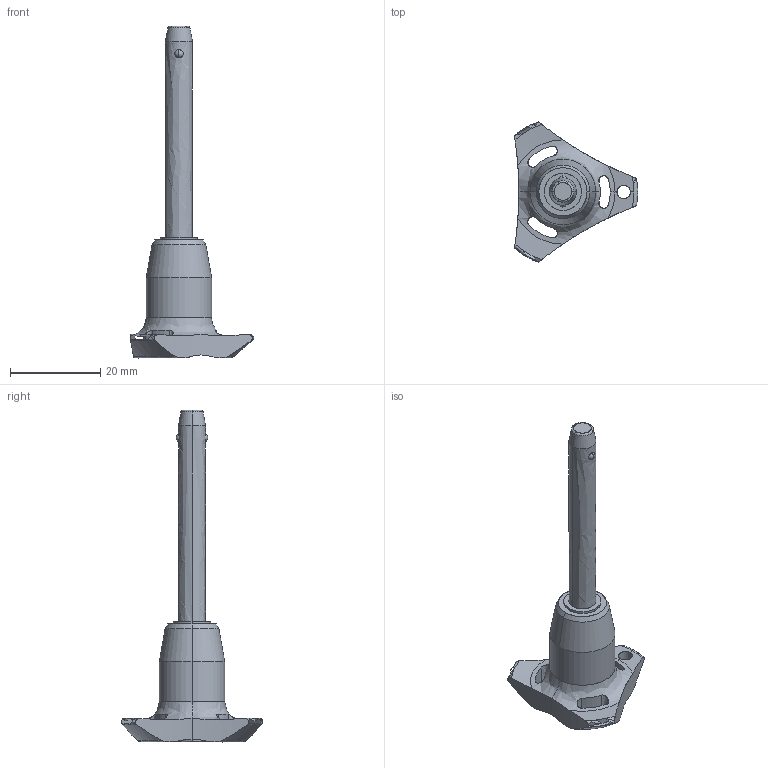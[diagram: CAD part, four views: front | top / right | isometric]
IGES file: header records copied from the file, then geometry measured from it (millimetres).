
Start section: SolidWorks IGES file using analytic representation for surfaces
Global section: file name: C:\Users\ianosborn\Desktop\QR1714_v2\QR1714_v2_20251112_IGES\QR1714.M06-040-S.igs; native system: SolidWorks 2019; preprocessor: SolidWorks 2019; author: IanOsborn; date: 251112.100001; units: millimetre
Bounding box: 27.4 x 31.31 x 73.7 mm (x, y, z)
Surface area: 3306.9 mm2 (no closed solid volume)
Topology: 0 solids, 0 shells, 66 faces, 1251 edges, 1232 vertices
Faces by surface type: revolution 50, bspline 16
